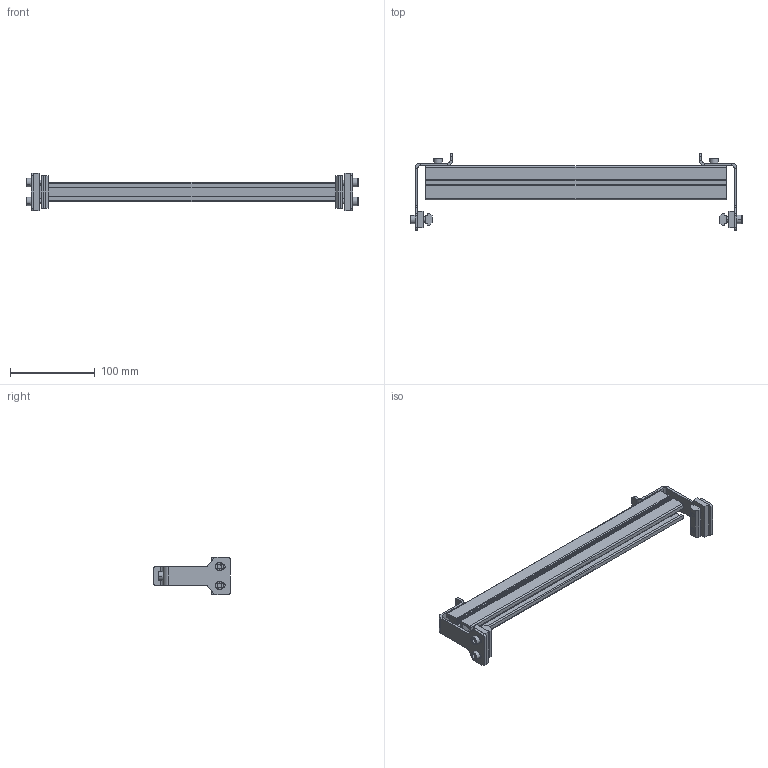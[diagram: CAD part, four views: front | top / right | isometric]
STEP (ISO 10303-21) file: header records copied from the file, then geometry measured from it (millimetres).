
FILE_DESCRIPTION (( 'STEP AP203' ), '1' );
FILE_NAME ('207137-14.STEP', '2023-03-01T21:16:15', ( '' ), ( '' ), 'SwSTEP 2.0', 'SolidWorks 2020', '' );
FILE_SCHEMA (( 'CONFIG_CONTROL_DESIGN' ));
Length unit declared in the file: inch
Products named in the file (8): 639971M_CAE; 200626M; 9206XXM_920620M; 202444; 9206XXM_920614M; 207137-14; 207134; 207135-WW_207135-14
Assembly tree (15 placements, depth 2):
  207137-14
    207134  x2
    207135-WW_207135-14
    202444  x2
    200626M  x2
    639971M_CAE  x2
    9206XXM_920614M  x2
    9206XXM_920620M  x4
Bounding box: 391.37 x 90.68 x 44.45 mm (x, y, z)
Volume: 189017.1 mm3; surface area: 117702 mm2
Topology: 15 solids, 15 shells, 432 faces, 1042 edges, 652 vertices
Faces by surface type: plane 258, cylinder 108, cone 66
Entity records: 8328 total; most frequent: CARTESIAN_POINT 1374, DIRECTION 1230, ORIENTED_EDGE 1212, EDGE_CURVE 606, LINE 462, VECTOR 462, VERTEX_POINT 388, AXIS2_PLACEMENT_3D 384
